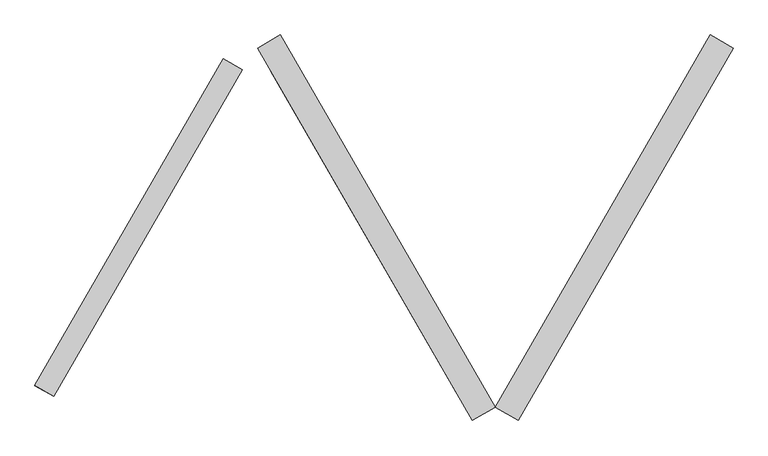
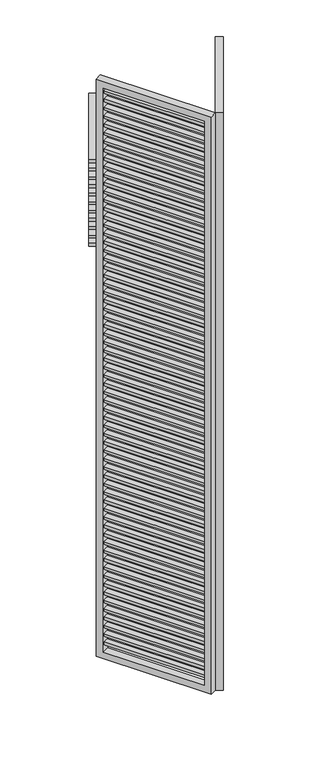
"""IFC4 building model written with IfcOpenShell, lengths in millimetres: proxy geometry, Renson_Amani_Loggia_Plano_Folding : Renson_Amani_Loggia_Plano_Folding."""

from ifc_helpers import new_model, si_unit, frame, origin, place, context, project, spatial, polyline, outline, extrude, source, transform, mapped, element, save


def generic_models_5e704084(model_context):
    return source(origin(), model_context, "Body", "SweptSolid", [
        extrude(outline(polyline([(1386.6721051, 546.5254963), (1415.2509434, 530.0254963), (1130.2509434, 36.3910162), (1101.6721051, 52.8910162), (1386.6721051, 546.5254963)])), frame((0.0, 0.0, 3177.0), z_axis=(0.0, 0.0, 1.0), x_axis=(1.0, 0.0, 0.0)), (0.0, 0.0, 1.0), 16.0),
        extrude(outline(polyline([(1386.6721051, 546.5254963), (1415.2509434, 530.0254963), (1130.2509434, 36.3910162), (1101.6721051, 52.8910162), (1386.6721051, 546.5254963)])), frame((0.0, 0.0, 3127.0), z_axis=(0.0, 0.0, 1.0), x_axis=(1.0, 0.0, 0.0)), (0.0, 0.0, 1.0), 16.0),
        extrude(outline(polyline([(1386.6721051, 546.5254963), (1415.2509434, 530.0254963), (1130.2509434, 36.3910162), (1101.6721051, 52.8910162), (1386.6721051, 546.5254963)])), frame((0.0, 0.0, 3077.0), z_axis=(0.0, 0.0, 1.0), x_axis=(1.0, 0.0, 0.0)), (0.0, 0.0, 1.0), 16.0),
        extrude(outline(polyline([(1386.6721051, 546.5254963), (1415.2509434, 530.0254963), (1130.2509434, 36.3910162), (1101.6721051, 52.8910162), (1386.6721051, 546.5254963)])), frame((0.0, 0.0, 3027.0), z_axis=(0.0, 0.0, 1.0), x_axis=(1.0, 0.0, 0.0)), (0.0, 0.0, 1.0), 16.0),
        extrude(outline(polyline([(1386.6721051, 546.5254963), (1415.2509434, 530.0254963), (1130.2509434, 36.3910162), (1101.6721051, 52.8910162), (1386.6721051, 546.5254963)])), frame((0.0, 0.0, 2977.0), z_axis=(0.0, 0.0, 1.0), x_axis=(1.0, 0.0, 0.0)), (0.0, 0.0, 1.0), 16.0),
        extrude(outline(polyline([(1386.6721051, 546.5254963), (1415.2509434, 530.0254963), (1130.2509434, 36.3910162), (1101.6721051, 52.8910162), (1386.6721051, 546.5254963)])), frame((0.0, 0.0, 2927.0), z_axis=(0.0, 0.0, 1.0), x_axis=(1.0, 0.0, 0.0)), (0.0, 0.0, 1.0), 16.0),
        extrude(outline(polyline([(1386.6721051, 546.5254963), (1415.2509434, 530.0254963), (1130.2509434, 36.3910162), (1101.6721051, 52.8910162), (1386.6721051, 546.5254963)])), frame((0.0, 0.0, 2877.0), z_axis=(0.0, 0.0, 1.0), x_axis=(1.0, 0.0, 0.0)), (0.0, 0.0, 1.0), 16.0),
        extrude(outline(polyline([(1386.6721051, 546.5254963), (1415.2509434, 530.0254963), (1130.2509434, 36.3910162), (1101.6721051, 52.8910162), (1386.6721051, 546.5254963)])), frame((0.0, 0.0, 2827.0), z_axis=(0.0, 0.0, 1.0), x_axis=(1.0, 0.0, 0.0)), (0.0, 0.0, 1.0), 16.0),
        extrude(outline(polyline([(1386.6721051, 546.5254963), (1415.2509434, 530.0254963), (1130.2509434, 36.3910162), (1101.6721051, 52.8910162), (1386.6721051, 546.5254963)])), frame((0.0, 0.0, 2777.0), z_axis=(0.0, 0.0, 1.0), x_axis=(1.0, 0.0, 0.0)), (0.0, 0.0, 1.0), 16.0),
        extrude(outline(polyline([(1386.6721051, 546.5254963), (1415.2509434, 530.0254963), (1130.2509434, 36.3910162), (1101.6721051, 52.8910162), (1386.6721051, 546.5254963)])), frame((0.0, 0.0, 2727.0), z_axis=(0.0, 0.0, 1.0), x_axis=(1.0, 0.0, 0.0)), (0.0, 0.0, 1.0), 16.0),
        extrude(outline(polyline([(1386.6721051, 546.5254963), (1415.2509434, 530.0254963), (1130.2509434, 36.3910162), (1101.6721051, 52.8910162), (1386.6721051, 546.5254963)])), frame((0.0, 0.0, 2677.0), z_axis=(0.0, 0.0, 1.0), x_axis=(1.0, 0.0, 0.0)), (0.0, 0.0, 1.0), 16.0),
        extrude(outline(polyline([(1386.6721051, 546.5254963), (1415.2509434, 530.0254963), (1130.2509434, 36.3910162), (1101.6721051, 52.8910162), (1386.6721051, 546.5254963)])), frame((0.0, 0.0, 2627.0), z_axis=(0.0, 0.0, 1.0), x_axis=(1.0, 0.0, 0.0)), (0.0, 0.0, 1.0), 16.0),
        extrude(outline(polyline([(1386.6721051, 546.5254963), (1415.2509434, 530.0254963), (1130.2509434, 36.3910162), (1101.6721051, 52.8910162), (1386.6721051, 546.5254963)])), frame((0.0, 0.0, 2577.0), z_axis=(0.0, 0.0, 1.0), x_axis=(1.0, 0.0, 0.0)), (0.0, 0.0, 1.0), 16.0),
        extrude(outline(polyline([(1386.6721051, 546.5254963), (1415.2509434, 530.0254963), (1130.2509434, 36.3910162), (1101.6721051, 52.8910162), (1386.6721051, 546.5254963)])), frame((0.0, 0.0, 2527.0), z_axis=(0.0, 0.0, 1.0), x_axis=(1.0, 0.0, 0.0)), (0.0, 0.0, 1.0), 16.0),
        extrude(outline(polyline([(1386.6721051, 546.5254963), (1415.2509434, 530.0254963), (1130.2509434, 36.3910162), (1101.6721051, 52.8910162), (1386.6721051, 546.5254963)])), frame((0.0, 0.0, 2477.0), z_axis=(0.0, 0.0, 1.0), x_axis=(1.0, 0.0, 0.0)), (0.0, 0.0, 1.0), 16.0),
        extrude(outline(polyline([(1386.6721051, 546.5254963), (1415.2509434, 530.0254963), (1130.2509434, 36.3910162), (1101.6721051, 52.8910162), (1386.6721051, 546.5254963)])), frame((0.0, 0.0, 2427.0), z_axis=(0.0, 0.0, 1.0), x_axis=(1.0, 0.0, 0.0)), (0.0, 0.0, 1.0), 16.0),
        extrude(outline(polyline([(1386.6721051, 546.5254963), (1415.2509434, 530.0254963), (1130.2509434, 36.3910162), (1101.6721051, 52.8910162), (1386.6721051, 546.5254963)])), frame((0.0, 0.0, 2377.0), z_axis=(0.0, 0.0, 1.0), x_axis=(1.0, 0.0, 0.0)), (0.0, 0.0, 1.0), 16.0),
        extrude(outline(polyline([(1386.6721051, 546.5254963), (1415.2509434, 530.0254963), (1130.2509434, 36.3910162), (1101.6721051, 52.8910162), (1386.6721051, 546.5254963)])), frame((0.0, 0.0, 2327.0), z_axis=(0.0, 0.0, 1.0), x_axis=(1.0, 0.0, 0.0)), (0.0, 0.0, 1.0), 16.0),
        extrude(outline(polyline([(1386.6721051, 546.5254963), (1415.2509434, 530.0254963), (1130.2509434, 36.3910162), (1101.6721051, 52.8910162), (1386.6721051, 546.5254963)])), frame((0.0, 0.0, 2277.0), z_axis=(0.0, 0.0, 1.0), x_axis=(1.0, 0.0, 0.0)), (0.0, 0.0, 1.0), 16.0),
        extrude(outline(polyline([(1386.6721051, 546.5254963), (1415.2509434, 530.0254963), (1130.2509434, 36.3910162), (1101.6721051, 52.8910162), (1386.6721051, 546.5254963)])), frame((0.0, 0.0, 2227.0), z_axis=(0.0, 0.0, 1.0), x_axis=(1.0, 0.0, 0.0)), (0.0, 0.0, 1.0), 16.0),
        extrude(outline(polyline([(1386.6721051, 546.5254963), (1415.2509434, 530.0254963), (1130.2509434, 36.3910162), (1101.6721051, 52.8910162), (1386.6721051, 546.5254963)])), frame((0.0, 0.0, 2177.0), z_axis=(0.0, 0.0, 1.0), x_axis=(1.0, 0.0, 0.0)), (0.0, 0.0, 1.0), 16.0),
        extrude(outline(polyline([(1386.6721051, 546.5254963), (1415.2509434, 530.0254963), (1130.2509434, 36.3910162), (1101.6721051, 52.8910162), (1386.6721051, 546.5254963)])), frame((0.0, 0.0, 2127.0), z_axis=(0.0, 0.0, 1.0), x_axis=(1.0, 0.0, 0.0)), (0.0, 0.0, 1.0), 16.0),
        extrude(outline(polyline([(1386.6721051, 546.5254963), (1415.2509434, 530.0254963), (1130.2509434, 36.3910162), (1101.6721051, 52.8910162), (1386.6721051, 546.5254963)])), frame((0.0, 0.0, 2077.0), z_axis=(0.0, 0.0, 1.0), x_axis=(1.0, 0.0, 0.0)), (0.0, 0.0, 1.0), 16.0),
        extrude(outline(polyline([(1386.6721051, 546.5254963), (1415.2509434, 530.0254963), (1130.2509434, 36.3910162), (1101.6721051, 52.8910162), (1386.6721051, 546.5254963)])), frame((0.0, 0.0, 2027.0), z_axis=(0.0, 0.0, 1.0), x_axis=(1.0, 0.0, 0.0)), (0.0, 0.0, 1.0), 16.0),
        extrude(outline(polyline([(1386.6721051, 546.5254963), (1415.2509434, 530.0254963), (1130.2509434, 36.3910162), (1101.6721051, 52.8910162), (1386.6721051, 546.5254963)])), frame((0.0, 0.0, 1977.0), z_axis=(0.0, 0.0, 1.0), x_axis=(1.0, 0.0, 0.0)), (0.0, 0.0, 1.0), 16.0),
        extrude(outline(polyline([(1386.6721051, 546.5254963), (1415.2509434, 530.0254963), (1130.2509434, 36.3910162), (1101.6721051, 52.8910162), (1386.6721051, 546.5254963)])), frame((0.0, 0.0, 1927.0), z_axis=(0.0, 0.0, 1.0), x_axis=(1.0, 0.0, 0.0)), (0.0, 0.0, 1.0), 16.0),
        extrude(outline(polyline([(1386.6721051, 546.5254963), (1415.2509434, 530.0254963), (1130.2509434, 36.3910162), (1101.6721051, 52.8910162), (1386.6721051, 546.5254963)])), frame((0.0, 0.0, 1877.0), z_axis=(0.0, 0.0, 1.0), x_axis=(1.0, 0.0, 0.0)), (0.0, 0.0, 1.0), 16.0),
        extrude(outline(polyline([(1386.6721051, 546.5254963), (1415.2509434, 530.0254963), (1130.2509434, 36.3910162), (1101.6721051, 52.8910162), (1386.6721051, 546.5254963)])), frame((0.0, 0.0, 1827.0), z_axis=(0.0, 0.0, 1.0), x_axis=(1.0, 0.0, 0.0)), (0.0, 0.0, 1.0), 16.0),
        extrude(outline(polyline([(1386.6721051, 546.5254963), (1415.2509434, 530.0254963), (1130.2509434, 36.3910162), (1101.6721051, 52.8910162), (1386.6721051, 546.5254963)])), frame((0.0, 0.0, 1777.0), z_axis=(0.0, 0.0, 1.0), x_axis=(1.0, 0.0, 0.0)), (0.0, 0.0, 1.0), 16.0),
        extrude(outline(polyline([(1386.6721051, 546.5254963), (1415.2509434, 530.0254963), (1130.2509434, 36.3910162), (1101.6721051, 52.8910162), (1386.6721051, 546.5254963)])), frame((0.0, 0.0, 1727.0), z_axis=(0.0, 0.0, 1.0), x_axis=(1.0, 0.0, 0.0)), (0.0, 0.0, 1.0), 16.0),
        extrude(outline(polyline([(1386.6721051, 546.5254963), (1415.2509434, 530.0254963), (1130.2509434, 36.3910162), (1101.6721051, 52.8910162), (1386.6721051, 546.5254963)])), frame((0.0, 0.0, 1677.0), z_axis=(0.0, 0.0, 1.0), x_axis=(1.0, 0.0, 0.0)), (0.0, 0.0, 1.0), 16.0),
        extrude(outline(polyline([(1386.6721051, 546.5254963), (1415.2509434, 530.0254963), (1130.2509434, 36.3910162), (1101.6721051, 52.8910162), (1386.6721051, 546.5254963)])), frame((0.0, 0.0, 1627.0), z_axis=(0.0, 0.0, 1.0), x_axis=(1.0, 0.0, 0.0)), (0.0, 0.0, 1.0), 16.0),
        extrude(outline(polyline([(1386.6721051, 546.5254963), (1415.2509434, 530.0254963), (1130.2509434, 36.3910162), (1101.6721051, 52.8910162), (1386.6721051, 546.5254963)])), frame((0.0, 0.0, 1577.0), z_axis=(0.0, 0.0, 1.0), x_axis=(1.0, 0.0, 0.0)), (0.0, 0.0, 1.0), 16.0),
        extrude(outline(polyline([(1386.6721051, 546.5254963), (1415.2509434, 530.0254963), (1130.2509434, 36.3910162), (1101.6721051, 52.8910162), (1386.6721051, 546.5254963)])), frame((0.0, 0.0, 1527.0), z_axis=(0.0, 0.0, 1.0), x_axis=(1.0, 0.0, 0.0)), (0.0, 0.0, 1.0), 16.0),
        extrude(outline(polyline([(1386.6721051, 546.5254963), (1415.2509434, 530.0254963), (1130.2509434, 36.3910162), (1101.6721051, 52.8910162), (1386.6721051, 546.5254963)])), frame((0.0, 0.0, 1477.0), z_axis=(0.0, 0.0, 1.0), x_axis=(1.0, 0.0, 0.0)), (0.0, 0.0, 1.0), 16.0),
        extrude(outline(polyline([(1386.6721051, 546.5254963), (1415.2509434, 530.0254963), (1130.2509434, 36.3910162), (1101.6721051, 52.8910162), (1386.6721051, 546.5254963)])), frame((0.0, 0.0, 1427.0), z_axis=(0.0, 0.0, 1.0), x_axis=(1.0, 0.0, 0.0)), (0.0, 0.0, 1.0), 16.0),
        extrude(outline(polyline([(1386.6721051, 546.5254963), (1415.2509434, 530.0254963), (1130.2509434, 36.3910162), (1101.6721051, 52.8910162), (1386.6721051, 546.5254963)])), frame((0.0, 0.0, 1377.0), z_axis=(0.0, 0.0, 1.0), x_axis=(1.0, 0.0, 0.0)), (0.0, 0.0, 1.0), 16.0),
        extrude(outline(polyline([(1386.6721051, 546.5254963), (1415.2509434, 530.0254963), (1130.2509434, 36.3910162), (1101.6721051, 52.8910162), (1386.6721051, 546.5254963)])), frame((0.0, 0.0, 1327.0), z_axis=(0.0, 0.0, 1.0), x_axis=(1.0, 0.0, 0.0)), (0.0, 0.0, 1.0), 16.0),
        extrude(outline(polyline([(1386.6721051, 546.5254963), (1415.2509434, 530.0254963), (1130.2509434, 36.3910162), (1101.6721051, 52.8910162), (1386.6721051, 546.5254963)])), frame((0.0, 0.0, 1277.0), z_axis=(0.0, 0.0, 1.0), x_axis=(1.0, 0.0, 0.0)), (0.0, 0.0, 1.0), 16.0),
        extrude(outline(polyline([(1386.6721051, 546.5254963), (1415.2509434, 530.0254963), (1130.2509434, 36.3910162), (1101.6721051, 52.8910162), (1386.6721051, 546.5254963)])), frame((0.0, 0.0, 1227.0), z_axis=(0.0, 0.0, 1.0), x_axis=(1.0, 0.0, 0.0)), (0.0, 0.0, 1.0), 16.0),
        extrude(outline(polyline([(1386.6721051, 546.5254963), (1415.2509434, 530.0254963), (1130.2509434, 36.3910162), (1101.6721051, 52.8910162), (1386.6721051, 546.5254963)])), frame((0.0, 0.0, 1177.0), z_axis=(0.0, 0.0, 1.0), x_axis=(1.0, 0.0, 0.0)), (0.0, 0.0, 1.0), 16.0),
        extrude(outline(polyline([(1386.6721051, 546.5254963), (1415.2509434, 530.0254963), (1130.2509434, 36.3910162), (1101.6721051, 52.8910162), (1386.6721051, 546.5254963)])), frame((0.0, 0.0, 1127.0), z_axis=(0.0, 0.0, 1.0), x_axis=(1.0, 0.0, 0.0)), (0.0, 0.0, 1.0), 16.0),
        extrude(outline(polyline([(1386.6721051, 546.5254963), (1415.2509434, 530.0254963), (1130.2509434, 36.3910162), (1101.6721051, 52.8910162), (1386.6721051, 546.5254963)])), frame((0.0, 0.0, 1077.0), z_axis=(0.0, 0.0, 1.0), x_axis=(1.0, 0.0, 0.0)), (0.0, 0.0, 1.0), 16.0),
        extrude(outline(polyline([(1386.6721051, 546.5254963), (1415.2509434, 530.0254963), (1130.2509434, 36.3910162), (1101.6721051, 52.8910162), (1386.6721051, 546.5254963)])), frame((0.0, 0.0, 1027.0), z_axis=(0.0, 0.0, 1.0), x_axis=(1.0, 0.0, 0.0)), (0.0, 0.0, 1.0), 16.0),
        extrude(outline(polyline([(1386.6721051, 546.5254963), (1415.2509434, 530.0254963), (1130.2509434, 36.3910162), (1101.6721051, 52.8910162), (1386.6721051, 546.5254963)])), frame((0.0, 0.0, 977.0), z_axis=(0.0, 0.0, 1.0), x_axis=(1.0, 0.0, 0.0)), (0.0, 0.0, 1.0), 16.0),
        extrude(outline(polyline([(1386.6721051, 546.5254963), (1415.2509434, 530.0254963), (1130.2509434, 36.3910162), (1101.6721051, 52.8910162), (1386.6721051, 546.5254963)])), frame((0.0, 0.0, 927.0), z_axis=(0.0, 0.0, 1.0), x_axis=(1.0, 0.0, 0.0)), (0.0, 0.0, 1.0), 16.0),
        extrude(outline(polyline([(1386.6721051, 546.5254963), (1415.2509434, 530.0254963), (1130.2509434, 36.3910162), (1101.6721051, 52.8910162), (1386.6721051, 546.5254963)])), frame((0.0, 0.0, 877.0), z_axis=(0.0, 0.0, 1.0), x_axis=(1.0, 0.0, 0.0)), (0.0, 0.0, 1.0), 16.0),
        extrude(outline(polyline([(1386.6721051, 546.5254963), (1415.2509434, 530.0254963), (1130.2509434, 36.3910162), (1101.6721051, 52.8910162), (1386.6721051, 546.5254963)])), frame((0.0, 0.0, 827.0), z_axis=(0.0, 0.0, 1.0), x_axis=(1.0, 0.0, 0.0)), (0.0, 0.0, 1.0), 16.0),
        extrude(outline(polyline([(1386.6721051, 546.5254963), (1415.2509434, 530.0254963), (1130.2509434, 36.3910162), (1101.6721051, 52.8910162), (1386.6721051, 546.5254963)])), frame((0.0, 0.0, 777.0), z_axis=(0.0, 0.0, 1.0), x_axis=(1.0, 0.0, 0.0)), (0.0, 0.0, 1.0), 16.0),
        extrude(outline(polyline([(1386.6721051, 546.5254963), (1415.2509434, 530.0254963), (1130.2509434, 36.3910162), (1101.6721051, 52.8910162), (1386.6721051, 546.5254963)])), frame((0.0, 0.0, 727.0), z_axis=(0.0, 0.0, 1.0), x_axis=(1.0, 0.0, 0.0)), (0.0, 0.0, 1.0), 16.0),
        extrude(outline(polyline([(1386.6721051, 546.5254963), (1415.2509434, 530.0254963), (1130.2509434, 36.3910162), (1101.6721051, 52.8910162), (1386.6721051, 546.5254963)])), frame((0.0, 0.0, 677.0), z_axis=(0.0, 0.0, 1.0), x_axis=(1.0, 0.0, 0.0)), (0.0, 0.0, 1.0), 16.0),
        extrude(outline(polyline([(1386.6721051, 546.5254963), (1415.2509434, 530.0254963), (1130.2509434, 36.3910162), (1101.6721051, 52.8910162), (1386.6721051, 546.5254963)])), frame((0.0, 0.0, 627.0), z_axis=(0.0, 0.0, 1.0), x_axis=(1.0, 0.0, 0.0)), (0.0, 0.0, 1.0), 16.0),
        extrude(outline(polyline([(1386.6721051, 546.5254963), (1415.2509434, 530.0254963), (1130.2509434, 36.3910162), (1101.6721051, 52.8910162), (1386.6721051, 546.5254963)])), frame((0.0, 0.0, 577.0), z_axis=(0.0, 0.0, 1.0), x_axis=(1.0, 0.0, 0.0)), (0.0, 0.0, 1.0), 16.0),
        extrude(outline(polyline([(1386.6721051, 546.5254963), (1415.2509434, 530.0254963), (1130.2509434, 36.3910162), (1101.6721051, 52.8910162), (1386.6721051, 546.5254963)])), frame((0.0, 0.0, 527.0), z_axis=(0.0, 0.0, 1.0), x_axis=(1.0, 0.0, 0.0)), (0.0, 0.0, 1.0), 16.0),
        extrude(outline(polyline([(1386.6721051, 546.5254963), (1415.2509434, 530.0254963), (1130.2509434, 36.3910162), (1101.6721051, 52.8910162), (1386.6721051, 546.5254963)])), frame((0.0, 0.0, 477.0), z_axis=(0.0, 0.0, 1.0), x_axis=(1.0, 0.0, 0.0)), (0.0, 0.0, 1.0), 16.0),
        extrude(outline(polyline([(1386.6721051, 546.5254963), (1415.2509434, 530.0254963), (1130.2509434, 36.3910162), (1101.6721051, 52.8910162), (1386.6721051, 546.5254963)])), frame((0.0, 0.0, 427.0), z_axis=(0.0, 0.0, 1.0), x_axis=(1.0, 0.0, 0.0)), (0.0, 0.0, 1.0), 16.0),
        extrude(outline(polyline([(1386.6721051, 546.5254963), (1415.2509434, 530.0254963), (1130.2509434, 36.3910162), (1101.6721051, 52.8910162), (1386.6721051, 546.5254963)])), frame((0.0, 0.0, 377.0), z_axis=(0.0, 0.0, 1.0), x_axis=(1.0, 0.0, 0.0)), (0.0, 0.0, 1.0), 16.0),
        extrude(outline(polyline([(1386.6721051, 546.5254963), (1415.2509434, 530.0254963), (1130.2509434, 36.3910162), (1101.6721051, 52.8910162), (1386.6721051, 546.5254963)])), frame((0.0, 0.0, 327.0), z_axis=(0.0, 0.0, 1.0), x_axis=(1.0, 0.0, 0.0)), (0.0, 0.0, 1.0), 16.0),
        extrude(outline(polyline([(1386.6721051, 546.5254963), (1415.2509434, 530.0254963), (1130.2509434, 36.3910162), (1101.6721051, 52.8910162), (1386.6721051, 546.5254963)])), frame((0.0, 0.0, 277.0), z_axis=(0.0, 0.0, 1.0), x_axis=(1.0, 0.0, 0.0)), (0.0, 0.0, 1.0), 16.0),
        extrude(outline(polyline([(1386.6721051, 546.5254963), (1415.2509434, 530.0254963), (1130.2509434, 36.3910162), (1101.6721051, 52.8910162), (1386.6721051, 546.5254963)])), frame((0.0, 0.0, 227.0), z_axis=(0.0, 0.0, 1.0), x_axis=(1.0, 0.0, 0.0)), (0.0, 0.0, 1.0), 16.0),
        extrude(outline(polyline([(1386.6721051, 546.5254963), (1415.2509434, 530.0254963), (1130.2509434, 36.3910162), (1101.6721051, 52.8910162), (1386.6721051, 546.5254963)])), frame((0.0, 0.0, 177.0), z_axis=(0.0, 0.0, 1.0), x_axis=(1.0, 0.0, 0.0)), (0.0, 0.0, 1.0), 16.0),
        extrude(outline(polyline([(1386.6721051, 546.5254963), (1415.2509434, 530.0254963), (1130.2509434, 36.3910162), (1101.6721051, 52.8910162), (1386.6721051, 546.5254963)])), frame((0.0, 0.0, 127.0), z_axis=(0.0, 0.0, 1.0), x_axis=(1.0, 0.0, 0.0)), (0.0, 0.0, 1.0), 16.0),
        extrude(outline(polyline([(3415.0, -40.0), (-40.0, -40.0), (-40.0, 610.0), (3415.0, 610.0), (3415.0, -40.0)]), holes=[polyline([(3375.0, 570.0), (0.0, 570.0), (0.0, 0.0), (3375.0, 0.0), (3375.0, 570.0)])]), frame((1133.2820323, 34.6410162, 85.0), z_axis=(-0.8660254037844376, 0.5000000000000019, 0.0), x_axis=(0.0, 0.0, 1.0)), (0.0, 0.0, 1.0), 40.0),
        extrude(outline(polyline([(1055.8919595, 52.8910162), (1027.3131212, 36.3910162), (742.3131212, 530.0254963), (770.8919595, 546.5254963), (1055.8919595, 52.8910162)])), frame((0.0, 0.0, 3427.0), z_axis=(0.0, 0.0, 1.0), x_axis=(1.0, 0.0, 0.0)), (0.0, 0.0, 1.0), 16.0),
        extrude(outline(polyline([(1055.8919595, 52.8910162), (1027.3131212, 36.3910162), (742.3131212, 530.0254963), (770.8919595, 546.5254963), (1055.8919595, 52.8910162)])), frame((0.0, 0.0, 3377.0), z_axis=(0.0, 0.0, 1.0), x_axis=(1.0, 0.0, 0.0)), (0.0, 0.0, 1.0), 16.0),
        extrude(outline(polyline([(1055.8919595, 52.8910162), (1027.3131212, 36.3910162), (742.3131212, 530.0254963), (770.8919595, 546.5254963), (1055.8919595, 52.8910162)])), frame((0.0, 0.0, 3327.0), z_axis=(0.0, 0.0, 1.0), x_axis=(1.0, 0.0, 0.0)), (0.0, 0.0, 1.0), 16.0),
        extrude(outline(polyline([(1055.8919595, 52.8910162), (1027.3131212, 36.3910162), (742.3131212, 530.0254963), (770.8919595, 546.5254963), (1055.8919595, 52.8910162)])), frame((0.0, 0.0, 3277.0), z_axis=(0.0, 0.0, 1.0), x_axis=(1.0, 0.0, 0.0)), (0.0, 0.0, 1.0), 16.0),
        extrude(outline(polyline([(1055.8919595, 52.8910162), (1027.3131212, 36.3910162), (742.3131212, 530.0254963), (770.8919595, 546.5254963), (1055.8919595, 52.8910162)])), frame((0.0, 0.0, 3227.0), z_axis=(0.0, 0.0, 1.0), x_axis=(1.0, 0.0, 0.0)), (0.0, 0.0, 1.0), 16.0),
        extrude(outline(polyline([(1055.8919595, 52.8910162), (1027.3131212, 36.3910162), (742.3131212, 530.0254963), (770.8919595, 546.5254963), (1055.8919595, 52.8910162)])), frame((0.0, 0.0, 3177.0), z_axis=(0.0, 0.0, 1.0), x_axis=(1.0, 0.0, 0.0)), (0.0, 0.0, 1.0), 16.0),
        extrude(outline(polyline([(1055.8919595, 52.8910162), (1027.3131212, 36.3910162), (742.3131212, 530.0254963), (770.8919595, 546.5254963), (1055.8919595, 52.8910162)])), frame((0.0, 0.0, 3127.0), z_axis=(0.0, 0.0, 1.0), x_axis=(1.0, 0.0, 0.0)), (0.0, 0.0, 1.0), 16.0),
        extrude(outline(polyline([(1055.8919595, 52.8910162), (1027.3131212, 36.3910162), (742.3131212, 530.0254963), (770.8919595, 546.5254963), (1055.8919595, 52.8910162)])), frame((0.0, 0.0, 3077.0), z_axis=(0.0, 0.0, 1.0), x_axis=(1.0, 0.0, 0.0)), (0.0, 0.0, 1.0), 16.0),
        extrude(outline(polyline([(1055.8919595, 52.8910162), (1027.3131212, 36.3910162), (742.3131212, 530.0254963), (770.8919595, 546.5254963), (1055.8919595, 52.8910162)])), frame((0.0, 0.0, 3027.0), z_axis=(0.0, 0.0, 1.0), x_axis=(1.0, 0.0, 0.0)), (0.0, 0.0, 1.0), 16.0),
        extrude(outline(polyline([(1055.8919595, 52.8910162), (1027.3131212, 36.3910162), (742.3131212, 530.0254963), (770.8919595, 546.5254963), (1055.8919595, 52.8910162)])), frame((0.0, 0.0, 2977.0), z_axis=(0.0, 0.0, 1.0), x_axis=(1.0, 0.0, 0.0)), (0.0, 0.0, 1.0), 16.0),
        extrude(outline(polyline([(1055.8919595, 52.8910162), (1027.3131212, 36.3910162), (742.3131212, 530.0254963), (770.8919595, 546.5254963), (1055.8919595, 52.8910162)])), frame((0.0, 0.0, 2927.0), z_axis=(0.0, 0.0, 1.0), x_axis=(1.0, 0.0, 0.0)), (0.0, 0.0, 1.0), 16.0),
        extrude(outline(polyline([(1055.8919595, 52.8910162), (1027.3131212, 36.3910162), (742.3131212, 530.0254963), (770.8919595, 546.5254963), (1055.8919595, 52.8910162)])), frame((0.0, 0.0, 2877.0), z_axis=(0.0, 0.0, 1.0), x_axis=(1.0, 0.0, 0.0)), (0.0, 0.0, 1.0), 16.0),
        extrude(outline(polyline([(1055.8919595, 52.8910162), (1027.3131212, 36.3910162), (742.3131212, 530.0254963), (770.8919595, 546.5254963), (1055.8919595, 52.8910162)])), frame((0.0, 0.0, 2827.0), z_axis=(0.0, 0.0, 1.0), x_axis=(1.0, 0.0, 0.0)), (0.0, 0.0, 1.0), 16.0),
        extrude(outline(polyline([(1055.8919595, 52.8910162), (1027.3131212, 36.3910162), (742.3131212, 530.0254963), (770.8919595, 546.5254963), (1055.8919595, 52.8910162)])), frame((0.0, 0.0, 2777.0), z_axis=(0.0, 0.0, 1.0), x_axis=(1.0, 0.0, 0.0)), (0.0, 0.0, 1.0), 16.0),
        extrude(outline(polyline([(1055.8919595, 52.8910162), (1027.3131212, 36.3910162), (742.3131212, 530.0254963), (770.8919595, 546.5254963), (1055.8919595, 52.8910162)])), frame((0.0, 0.0, 2727.0), z_axis=(0.0, 0.0, 1.0), x_axis=(1.0, 0.0, 0.0)), (0.0, 0.0, 1.0), 16.0),
        extrude(outline(polyline([(1055.8919595, 52.8910162), (1027.3131212, 36.3910162), (742.3131212, 530.0254963), (770.8919595, 546.5254963), (1055.8919595, 52.8910162)])), frame((0.0, 0.0, 2677.0), z_axis=(0.0, 0.0, 1.0), x_axis=(1.0, 0.0, 0.0)), (0.0, 0.0, 1.0), 16.0),
        extrude(outline(polyline([(1055.8919595, 52.8910162), (1027.3131212, 36.3910162), (742.3131212, 530.0254963), (770.8919595, 546.5254963), (1055.8919595, 52.8910162)])), frame((0.0, 0.0, 2627.0), z_axis=(0.0, 0.0, 1.0), x_axis=(1.0, 0.0, 0.0)), (0.0, 0.0, 1.0), 16.0),
        extrude(outline(polyline([(1055.8919595, 52.8910162), (1027.3131212, 36.3910162), (742.3131212, 530.0254963), (770.8919595, 546.5254963), (1055.8919595, 52.8910162)])), frame((0.0, 0.0, 2577.0), z_axis=(0.0, 0.0, 1.0), x_axis=(1.0, 0.0, 0.0)), (0.0, 0.0, 1.0), 16.0),
        extrude(outline(polyline([(1055.8919595, 52.8910162), (1027.3131212, 36.3910162), (742.3131212, 530.0254963), (770.8919595, 546.5254963), (1055.8919595, 52.8910162)])), frame((0.0, 0.0, 2527.0), z_axis=(0.0, 0.0, 1.0), x_axis=(1.0, 0.0, 0.0)), (0.0, 0.0, 1.0), 16.0),
        extrude(outline(polyline([(1055.8919595, 52.8910162), (1027.3131212, 36.3910162), (742.3131212, 530.0254963), (770.8919595, 546.5254963), (1055.8919595, 52.8910162)])), frame((0.0, 0.0, 2477.0), z_axis=(0.0, 0.0, 1.0), x_axis=(1.0, 0.0, 0.0)), (0.0, 0.0, 1.0), 16.0),
        extrude(outline(polyline([(1055.8919595, 52.8910162), (1027.3131212, 36.3910162), (742.3131212, 530.0254963), (770.8919595, 546.5254963), (1055.8919595, 52.8910162)])), frame((0.0, 0.0, 2427.0), z_axis=(0.0, 0.0, 1.0), x_axis=(1.0, 0.0, 0.0)), (0.0, 0.0, 1.0), 16.0),
        extrude(outline(polyline([(1055.8919595, 52.8910162), (1027.3131212, 36.3910162), (742.3131212, 530.0254963), (770.8919595, 546.5254963), (1055.8919595, 52.8910162)])), frame((0.0, 0.0, 2377.0), z_axis=(0.0, 0.0, 1.0), x_axis=(1.0, 0.0, 0.0)), (0.0, 0.0, 1.0), 16.0),
        extrude(outline(polyline([(1055.8919595, 52.8910162), (1027.3131212, 36.3910162), (742.3131212, 530.0254963), (770.8919595, 546.5254963), (1055.8919595, 52.8910162)])), frame((0.0, 0.0, 2327.0), z_axis=(0.0, 0.0, 1.0), x_axis=(1.0, 0.0, 0.0)), (0.0, 0.0, 1.0), 16.0),
        extrude(outline(polyline([(1055.8919595, 52.8910162), (1027.3131212, 36.3910162), (742.3131212, 530.0254963), (770.8919595, 546.5254963), (1055.8919595, 52.8910162)])), frame((0.0, 0.0, 2277.0), z_axis=(0.0, 0.0, 1.0), x_axis=(1.0, 0.0, 0.0)), (0.0, 0.0, 1.0), 16.0),
        extrude(outline(polyline([(1055.8919595, 52.8910162), (1027.3131212, 36.3910162), (742.3131212, 530.0254963), (770.8919595, 546.5254963), (1055.8919595, 52.8910162)])), frame((0.0, 0.0, 2227.0), z_axis=(0.0, 0.0, 1.0), x_axis=(1.0, 0.0, 0.0)), (0.0, 0.0, 1.0), 16.0),
        extrude(outline(polyline([(1055.8919595, 52.8910162), (1027.3131212, 36.3910162), (742.3131212, 530.0254963), (770.8919595, 546.5254963), (1055.8919595, 52.8910162)])), frame((0.0, 0.0, 2177.0), z_axis=(0.0, 0.0, 1.0), x_axis=(1.0, 0.0, 0.0)), (0.0, 0.0, 1.0), 16.0),
        extrude(outline(polyline([(1055.8919595, 52.8910162), (1027.3131212, 36.3910162), (742.3131212, 530.0254963), (770.8919595, 546.5254963), (1055.8919595, 52.8910162)])), frame((0.0, 0.0, 2127.0), z_axis=(0.0, 0.0, 1.0), x_axis=(1.0, 0.0, 0.0)), (0.0, 0.0, 1.0), 16.0),
        extrude(outline(polyline([(1055.8919595, 52.8910162), (1027.3131212, 36.3910162), (742.3131212, 530.0254963), (770.8919595, 546.5254963), (1055.8919595, 52.8910162)])), frame((0.0, 0.0, 2077.0), z_axis=(0.0, 0.0, 1.0), x_axis=(1.0, 0.0, 0.0)), (0.0, 0.0, 1.0), 16.0),
        extrude(outline(polyline([(1055.8919595, 52.8910162), (1027.3131212, 36.3910162), (742.3131212, 530.0254963), (770.8919595, 546.5254963), (1055.8919595, 52.8910162)])), frame((0.0, 0.0, 2027.0), z_axis=(0.0, 0.0, 1.0), x_axis=(1.0, 0.0, 0.0)), (0.0, 0.0, 1.0), 16.0),
        extrude(outline(polyline([(1055.8919595, 52.8910162), (1027.3131212, 36.3910162), (742.3131212, 530.0254963), (770.8919595, 546.5254963), (1055.8919595, 52.8910162)])), frame((0.0, 0.0, 1977.0), z_axis=(0.0, 0.0, 1.0), x_axis=(1.0, 0.0, 0.0)), (0.0, 0.0, 1.0), 16.0),
        extrude(outline(polyline([(1055.8919595, 52.8910162), (1027.3131212, 36.3910162), (742.3131212, 530.0254963), (770.8919595, 546.5254963), (1055.8919595, 52.8910162)])), frame((0.0, 0.0, 1927.0), z_axis=(0.0, 0.0, 1.0), x_axis=(1.0, 0.0, 0.0)), (0.0, 0.0, 1.0), 16.0),
        extrude(outline(polyline([(1055.8919595, 52.8910162), (1027.3131212, 36.3910162), (742.3131212, 530.0254963), (770.8919595, 546.5254963), (1055.8919595, 52.8910162)])), frame((0.0, 0.0, 1877.0), z_axis=(0.0, 0.0, 1.0), x_axis=(1.0, 0.0, 0.0)), (0.0, 0.0, 1.0), 16.0),
        extrude(outline(polyline([(1055.8919595, 52.8910162), (1027.3131212, 36.3910162), (742.3131212, 530.0254963), (770.8919595, 546.5254963), (1055.8919595, 52.8910162)])), frame((0.0, 0.0, 1827.0), z_axis=(0.0, 0.0, 1.0), x_axis=(1.0, 0.0, 0.0)), (0.0, 0.0, 1.0), 16.0),
        extrude(outline(polyline([(1055.8919595, 52.8910162), (1027.3131212, 36.3910162), (742.3131212, 530.0254963), (770.8919595, 546.5254963), (1055.8919595, 52.8910162)])), frame((0.0, 0.0, 1777.0), z_axis=(0.0, 0.0, 1.0), x_axis=(1.0, 0.0, 0.0)), (0.0, 0.0, 1.0), 16.0),
        extrude(outline(polyline([(1055.8919595, 52.8910162), (1027.3131212, 36.3910162), (742.3131212, 530.0254963), (770.8919595, 546.5254963), (1055.8919595, 52.8910162)])), frame((0.0, 0.0, 1727.0), z_axis=(0.0, 0.0, 1.0), x_axis=(1.0, 0.0, 0.0)), (0.0, 0.0, 1.0), 16.0),
        extrude(outline(polyline([(1055.8919595, 52.8910162), (1027.3131212, 36.3910162), (742.3131212, 530.0254963), (770.8919595, 546.5254963), (1055.8919595, 52.8910162)])), frame((0.0, 0.0, 1677.0), z_axis=(0.0, 0.0, 1.0), x_axis=(1.0, 0.0, 0.0)), (0.0, 0.0, 1.0), 16.0),
        extrude(outline(polyline([(1055.8919595, 52.8910162), (1027.3131212, 36.3910162), (742.3131212, 530.0254963), (770.8919595, 546.5254963), (1055.8919595, 52.8910162)])), frame((0.0, 0.0, 1627.0), z_axis=(0.0, 0.0, 1.0), x_axis=(1.0, 0.0, 0.0)), (0.0, 0.0, 1.0), 16.0),
        extrude(outline(polyline([(1055.8919595, 52.8910162), (1027.3131212, 36.3910162), (742.3131212, 530.0254963), (770.8919595, 546.5254963), (1055.8919595, 52.8910162)])), frame((0.0, 0.0, 1577.0), z_axis=(0.0, 0.0, 1.0), x_axis=(1.0, 0.0, 0.0)), (0.0, 0.0, 1.0), 16.0),
        extrude(outline(polyline([(1055.8919595, 52.8910162), (1027.3131212, 36.3910162), (742.3131212, 530.0254963), (770.8919595, 546.5254963), (1055.8919595, 52.8910162)])), frame((0.0, 0.0, 1527.0), z_axis=(0.0, 0.0, 1.0), x_axis=(1.0, 0.0, 0.0)), (0.0, 0.0, 1.0), 16.0),
        extrude(outline(polyline([(1055.8919595, 52.8910162), (1027.3131212, 36.3910162), (742.3131212, 530.0254963), (770.8919595, 546.5254963), (1055.8919595, 52.8910162)])), frame((0.0, 0.0, 1477.0), z_axis=(0.0, 0.0, 1.0), x_axis=(1.0, 0.0, 0.0)), (0.0, 0.0, 1.0), 16.0),
        extrude(outline(polyline([(1055.8919595, 52.8910162), (1027.3131212, 36.3910162), (742.3131212, 530.0254963), (770.8919595, 546.5254963), (1055.8919595, 52.8910162)])), frame((0.0, 0.0, 1427.0), z_axis=(0.0, 0.0, 1.0), x_axis=(1.0, 0.0, 0.0)), (0.0, 0.0, 1.0), 16.0),
        extrude(outline(polyline([(1055.8919595, 52.8910162), (1027.3131212, 36.3910162), (742.3131212, 530.0254963), (770.8919595, 546.5254963), (1055.8919595, 52.8910162)])), frame((0.0, 0.0, 1377.0), z_axis=(0.0, 0.0, 1.0), x_axis=(1.0, 0.0, 0.0)), (0.0, 0.0, 1.0), 16.0),
        extrude(outline(polyline([(1055.8919595, 52.8910162), (1027.3131212, 36.3910162), (742.3131212, 530.0254963), (770.8919595, 546.5254963), (1055.8919595, 52.8910162)])), frame((0.0, 0.0, 1327.0), z_axis=(0.0, 0.0, 1.0), x_axis=(1.0, 0.0, 0.0)), (0.0, 0.0, 1.0), 16.0),
        extrude(outline(polyline([(1055.8919595, 52.8910162), (1027.3131212, 36.3910162), (742.3131212, 530.0254963), (770.8919595, 546.5254963), (1055.8919595, 52.8910162)])), frame((0.0, 0.0, 1277.0), z_axis=(0.0, 0.0, 1.0), x_axis=(1.0, 0.0, 0.0)), (0.0, 0.0, 1.0), 16.0),
        extrude(outline(polyline([(1055.8919595, 52.8910162), (1027.3131212, 36.3910162), (742.3131212, 530.0254963), (770.8919595, 546.5254963), (1055.8919595, 52.8910162)])), frame((0.0, 0.0, 1227.0), z_axis=(0.0, 0.0, 1.0), x_axis=(1.0, 0.0, 0.0)), (0.0, 0.0, 1.0), 16.0),
        extrude(outline(polyline([(1055.8919595, 52.8910162), (1027.3131212, 36.3910162), (742.3131212, 530.0254963), (770.8919595, 546.5254963), (1055.8919595, 52.8910162)])), frame((0.0, 0.0, 1177.0), z_axis=(0.0, 0.0, 1.0), x_axis=(1.0, 0.0, 0.0)), (0.0, 0.0, 1.0), 16.0),
        extrude(outline(polyline([(1055.8919595, 52.8910162), (1027.3131212, 36.3910162), (742.3131212, 530.0254963), (770.8919595, 546.5254963), (1055.8919595, 52.8910162)])), frame((0.0, 0.0, 1127.0), z_axis=(0.0, 0.0, 1.0), x_axis=(1.0, 0.0, 0.0)), (0.0, 0.0, 1.0), 16.0),
        extrude(outline(polyline([(1055.8919595, 52.8910162), (1027.3131212, 36.3910162), (742.3131212, 530.0254963), (770.8919595, 546.5254963), (1055.8919595, 52.8910162)])), frame((0.0, 0.0, 1077.0), z_axis=(0.0, 0.0, 1.0), x_axis=(1.0, 0.0, 0.0)), (0.0, 0.0, 1.0), 16.0),
        extrude(outline(polyline([(1055.8919595, 52.8910162), (1027.3131212, 36.3910162), (742.3131212, 530.0254963), (770.8919595, 546.5254963), (1055.8919595, 52.8910162)])), frame((0.0, 0.0, 1027.0), z_axis=(0.0, 0.0, 1.0), x_axis=(1.0, 0.0, 0.0)), (0.0, 0.0, 1.0), 16.0),
        extrude(outline(polyline([(1055.8919595, 52.8910162), (1027.3131212, 36.3910162), (742.3131212, 530.0254963), (770.8919595, 546.5254963), (1055.8919595, 52.8910162)])), frame((0.0, 0.0, 977.0), z_axis=(0.0, 0.0, 1.0), x_axis=(1.0, 0.0, 0.0)), (0.0, 0.0, 1.0), 16.0),
        extrude(outline(polyline([(1055.8919595, 52.8910162), (1027.3131212, 36.3910162), (742.3131212, 530.0254963), (770.8919595, 546.5254963), (1055.8919595, 52.8910162)])), frame((0.0, 0.0, 927.0), z_axis=(0.0, 0.0, 1.0), x_axis=(1.0, 0.0, 0.0)), (0.0, 0.0, 1.0), 16.0),
        extrude(outline(polyline([(1055.8919595, 52.8910162), (1027.3131212, 36.3910162), (742.3131212, 530.0254963), (770.8919595, 546.5254963), (1055.8919595, 52.8910162)])), frame((0.0, 0.0, 877.0), z_axis=(0.0, 0.0, 1.0), x_axis=(1.0, 0.0, 0.0)), (0.0, 0.0, 1.0), 16.0),
        extrude(outline(polyline([(1055.8919595, 52.8910162), (1027.3131212, 36.3910162), (742.3131212, 530.0254963), (770.8919595, 546.5254963), (1055.8919595, 52.8910162)])), frame((0.0, 0.0, 827.0), z_axis=(0.0, 0.0, 1.0), x_axis=(1.0, 0.0, 0.0)), (0.0, 0.0, 1.0), 16.0),
        extrude(outline(polyline([(1055.8919595, 52.8910162), (1027.3131212, 36.3910162), (742.3131212, 530.0254963), (770.8919595, 546.5254963), (1055.8919595, 52.8910162)])), frame((0.0, 0.0, 777.0), z_axis=(0.0, 0.0, 1.0), x_axis=(1.0, 0.0, 0.0)), (0.0, 0.0, 1.0), 16.0),
        extrude(outline(polyline([(1055.8919595, 52.8910162), (1027.3131212, 36.3910162), (742.3131212, 530.0254963), (770.8919595, 546.5254963), (1055.8919595, 52.8910162)])), frame((0.0, 0.0, 727.0), z_axis=(0.0, 0.0, 1.0), x_axis=(1.0, 0.0, 0.0)), (0.0, 0.0, 1.0), 16.0),
        extrude(outline(polyline([(1055.8919595, 52.8910162), (1027.3131212, 36.3910162), (742.3131212, 530.0254963), (770.8919595, 546.5254963), (1055.8919595, 52.8910162)])), frame((0.0, 0.0, 677.0), z_axis=(0.0, 0.0, 1.0), x_axis=(1.0, 0.0, 0.0)), (0.0, 0.0, 1.0), 16.0),
        extrude(outline(polyline([(1055.8919595, 52.8910162), (1027.3131212, 36.3910162), (742.3131212, 530.0254963), (770.8919595, 546.5254963), (1055.8919595, 52.8910162)])), frame((0.0, 0.0, 627.0), z_axis=(0.0, 0.0, 1.0), x_axis=(1.0, 0.0, 0.0)), (0.0, 0.0, 1.0), 16.0),
        extrude(outline(polyline([(1055.8919595, 52.8910162), (1027.3131212, 36.3910162), (742.3131212, 530.0254963), (770.8919595, 546.5254963), (1055.8919595, 52.8910162)])), frame((0.0, 0.0, 577.0), z_axis=(0.0, 0.0, 1.0), x_axis=(1.0, 0.0, 0.0)), (0.0, 0.0, 1.0), 16.0),
        extrude(outline(polyline([(1055.8919595, 52.8910162), (1027.3131212, 36.3910162), (742.3131212, 530.0254963), (770.8919595, 546.5254963), (1055.8919595, 52.8910162)])), frame((0.0, 0.0, 527.0), z_axis=(0.0, 0.0, 1.0), x_axis=(1.0, 0.0, 0.0)), (0.0, 0.0, 1.0), 16.0),
        extrude(outline(polyline([(1055.8919595, 52.8910162), (1027.3131212, 36.3910162), (742.3131212, 530.0254963), (770.8919595, 546.5254963), (1055.8919595, 52.8910162)])), frame((0.0, 0.0, 477.0), z_axis=(0.0, 0.0, 1.0), x_axis=(1.0, 0.0, 0.0)), (0.0, 0.0, 1.0), 16.0),
        extrude(outline(polyline([(1055.8919595, 52.8910162), (1027.3131212, 36.3910162), (742.3131212, 530.0254963), (770.8919595, 546.5254963), (1055.8919595, 52.8910162)])), frame((0.0, 0.0, 427.0), z_axis=(0.0, 0.0, 1.0), x_axis=(1.0, 0.0, 0.0)), (0.0, 0.0, 1.0), 16.0),
        extrude(outline(polyline([(1055.8919595, 52.8910162), (1027.3131212, 36.3910162), (742.3131212, 530.0254963), (770.8919595, 546.5254963), (1055.8919595, 52.8910162)])), frame((0.0, 0.0, 377.0), z_axis=(0.0, 0.0, 1.0), x_axis=(1.0, 0.0, 0.0)), (0.0, 0.0, 1.0), 16.0),
        extrude(outline(polyline([(1055.8919595, 52.8910162), (1027.3131212, 36.3910162), (742.3131212, 530.0254963), (770.8919595, 546.5254963), (1055.8919595, 52.8910162)])), frame((0.0, 0.0, 327.0), z_axis=(0.0, 0.0, 1.0), x_axis=(1.0, 0.0, 0.0)), (0.0, 0.0, 1.0), 16.0),
        extrude(outline(polyline([(1055.8919595, 52.8910162), (1027.3131212, 36.3910162), (742.3131212, 530.0254963), (770.8919595, 546.5254963), (1055.8919595, 52.8910162)])), frame((0.0, 0.0, 277.0), z_axis=(0.0, 0.0, 1.0), x_axis=(1.0, 0.0, 0.0)), (0.0, 0.0, 1.0), 16.0),
        extrude(outline(polyline([(1055.8919595, 52.8910162), (1027.3131212, 36.3910162), (742.3131212, 530.0254963), (770.8919595, 546.5254963), (1055.8919595, 52.8910162)])), frame((0.0, 0.0, 227.0), z_axis=(0.0, 0.0, 1.0), x_axis=(1.0, 0.0, 0.0)), (0.0, 0.0, 1.0), 16.0),
        extrude(outline(polyline([(1055.8919595, 52.8910162), (1027.3131212, 36.3910162), (742.3131212, 530.0254963), (770.8919595, 546.5254963), (1055.8919595, 52.8910162)])), frame((0.0, 0.0, 177.0), z_axis=(0.0, 0.0, 1.0), x_axis=(1.0, 0.0, 0.0)), (0.0, 0.0, 1.0), 16.0),
        extrude(outline(polyline([(1055.8919595, 52.8910162), (1027.3131212, 36.3910162), (742.3131212, 530.0254963), (770.8919595, 546.5254963), (1055.8919595, 52.8910162)])), frame((0.0, 0.0, 127.0), z_axis=(0.0, 0.0, 1.0), x_axis=(1.0, 0.0, 0.0)), (0.0, 0.0, 1.0), 16.0),
        extrude(outline(polyline([(3415.0, -40.0), (-40.0, -40.0), (-40.0, 610.0), (3415.0, 610.0), (3415.0, -40.0)]), holes=[polyline([(3375.0, 570.0), (0.0, 570.0), (0.0, 0.0), (3375.0, 0.0), (3375.0, 570.0)])]), frame((739.2820323, 528.2754963, 85.0), z_axis=(0.8660254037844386, 0.5000000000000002, 0.0), x_axis=(0.0, 0.0, 1.0)), (0.0, 0.0, 1.0), 40.0),
        extrude(outline(polyline([(667.6721051, 546.5254963), (696.2509434, 530.0254963), (411.2509434, 36.3910162), (382.6721051, 52.8910162), (667.6721051, 546.5254963)])), frame((0.0, 0.0, 3427.0), z_axis=(0.0, 0.0, 1.0), x_axis=(1.0, 0.0, 0.0)), (0.0, 0.0, 1.0), 16.0),
        extrude(outline(polyline([(667.6721051, 546.5254963), (696.2509434, 530.0254963), (411.2509434, 36.3910162), (382.6721051, 52.8910162), (667.6721051, 546.5254963)])), frame((0.0, 0.0, 3377.0), z_axis=(0.0, 0.0, 1.0), x_axis=(1.0, 0.0, 0.0)), (0.0, 0.0, 1.0), 16.0),
        extrude(outline(polyline([(667.6721051, 546.5254963), (696.2509434, 530.0254963), (411.2509434, 36.3910162), (382.6721051, 52.8910162), (667.6721051, 546.5254963)])), frame((0.0, 0.0, 3327.0), z_axis=(0.0, 0.0, 1.0), x_axis=(1.0, 0.0, 0.0)), (0.0, 0.0, 1.0), 16.0),
        extrude(outline(polyline([(667.6721051, 546.5254963), (696.2509434, 530.0254963), (411.2509434, 36.3910162), (382.6721051, 52.8910162), (667.6721051, 546.5254963)])), frame((0.0, 0.0, 3277.0), z_axis=(0.0, 0.0, 1.0), x_axis=(1.0, 0.0, 0.0)), (0.0, 0.0, 1.0), 16.0),
        extrude(outline(polyline([(667.6721051, 546.5254963), (696.2509434, 530.0254963), (411.2509434, 36.3910162), (382.6721051, 52.8910162), (667.6721051, 546.5254963)])), frame((0.0, 0.0, 3227.0), z_axis=(0.0, 0.0, 1.0), x_axis=(1.0, 0.0, 0.0)), (0.0, 0.0, 1.0), 16.0),
        extrude(outline(polyline([(667.6721051, 546.5254963), (696.2509434, 530.0254963), (411.2509434, 36.3910162), (382.6721051, 52.8910162), (667.6721051, 546.5254963)])), frame((0.0, 0.0, 3177.0), z_axis=(0.0, 0.0, 1.0), x_axis=(1.0, 0.0, 0.0)), (0.0, 0.0, 1.0), 16.0),
        extrude(outline(polyline([(667.6721051, 546.5254963), (696.2509434, 530.0254963), (411.2509434, 36.3910162), (382.6721051, 52.8910162), (667.6721051, 546.5254963)])), frame((0.0, 0.0, 3127.0), z_axis=(0.0, 0.0, 1.0), x_axis=(1.0, 0.0, 0.0)), (0.0, 0.0, 1.0), 16.0),
        extrude(outline(polyline([(667.6721051, 546.5254963), (696.2509434, 530.0254963), (411.2509434, 36.3910162), (382.6721051, 52.8910162), (667.6721051, 546.5254963)])), frame((0.0, 0.0, 3077.0), z_axis=(0.0, 0.0, 1.0), x_axis=(1.0, 0.0, 0.0)), (0.0, 0.0, 1.0), 16.0),
        extrude(outline(polyline([(667.6721051, 546.5254963), (696.2509434, 530.0254963), (411.2509434, 36.3910162), (382.6721051, 52.8910162), (667.6721051, 546.5254963)])), frame((0.0, 0.0, 3027.0), z_axis=(0.0, 0.0, 1.0), x_axis=(1.0, 0.0, 0.0)), (0.0, 0.0, 1.0), 16.0),
        extrude(outline(polyline([(667.6721051, 546.5254963), (696.2509434, 530.0254963), (411.2509434, 36.3910162), (382.6721051, 52.8910162), (667.6721051, 546.5254963)])), frame((0.0, 0.0, 2977.0), z_axis=(0.0, 0.0, 1.0), x_axis=(1.0, 0.0, 0.0)), (0.0, 0.0, 1.0), 16.0),
        extrude(outline(polyline([(667.6721051, 546.5254963), (696.2509434, 530.0254963), (411.2509434, 36.3910162), (382.6721051, 52.8910162), (667.6721051, 546.5254963)])), frame((0.0, 0.0, 2927.0), z_axis=(0.0, 0.0, 1.0), x_axis=(1.0, 0.0, 0.0)), (0.0, 0.0, 1.0), 16.0),
    ])


if __name__ == "__main__":
    model = new_model("IFC4")
    model_context = context("Model", 3, world=origin())
    ifc_project = project(units=[si_unit("LENGTHUNIT", "METRE", prefix="MILLI")], contexts=[model_context])
    site = spatial("IfcSite", under=ifc_project)
    building = spatial("IfcBuilding", under=site)
    placement = place(None, origin())
    generic_models_shape = generic_models_5e704084(model_context)
    element("IfcBuildingElementProxy", 1, Name="Renson_Amani_Loggia_Plano_Folding : Renson_Amani_Loggia_Plano_Folding", ObjectType="Renson_Amani_Loggia_Plano_Folding : Renson_Amani_Loggia_Plano_Folding", at=placement, inside=building, context=model_context, shape_type="MappedRepresentation", body=[
        mapped(generic_models_shape, transform((0.0, 0.0, 0.0), x_axis=(1.0, 0.0, 0.0), y_axis=(0.0, 1.0, 0.0), z_axis=(0.0, 0.0, 1.0))),
    ])
    save(model, "model.ifc")
